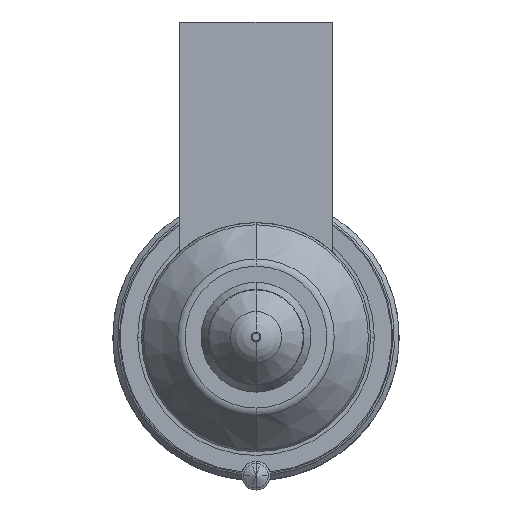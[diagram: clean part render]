
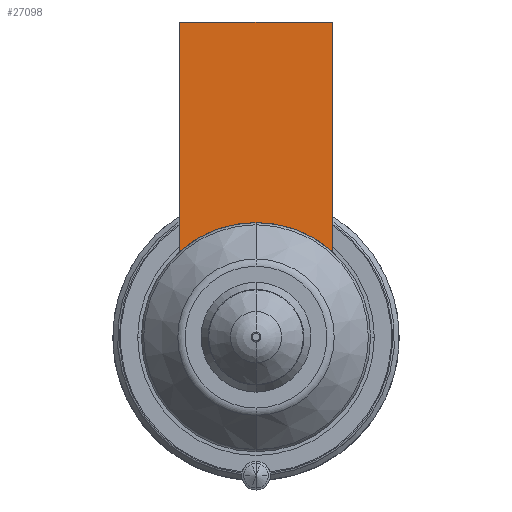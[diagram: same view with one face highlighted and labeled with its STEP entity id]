
A CAD part, front view. The second image highlights one B-rep face of the part: STEP entity #27098.
In plain terms, the highlighted planar face has unit normal (0, -1, 0).
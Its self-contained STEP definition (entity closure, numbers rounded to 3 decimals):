
#26176=DIRECTION('',(0.,0.,-1.));
#26177=VECTOR('',#26176,24.056);
#26178=CARTESIAN_POINT('',(-8.,-56.,33.));
#26179=LINE('',#26178,#26177);
#26216=DIRECTION('',(1.,0.,0.));
#26217=VECTOR('',#26216,16.);
#26218=CARTESIAN_POINT('',(-8.,-56.,33.));
#26219=LINE('',#26218,#26217);
#26223=CARTESIAN_POINT('',(0.,-56.,0.));
#26224=DIRECTION('',(0.,-1.,0.));
#26225=DIRECTION('',(0.667,0.,0.745));
#26226=AXIS2_PLACEMENT_3D('',#26223,#26224,#26225);
#26231=CARTESIAN_POINT('',(0.,-56.,0.));
#26232=DIRECTION('',(0.,-1.,0.));
#26233=DIRECTION('',(0.,0.,1.));
#26234=AXIS2_PLACEMENT_3D('',#26231,#26232,#26233);
#26267=DIRECTION('',(0.,0.,-1.));
#26268=VECTOR('',#26267,24.056);
#26269=CARTESIAN_POINT('',(8.,-56.,33.));
#26270=LINE('',#26269,#26268);
#26934=CARTESIAN_POINT('',(-8.,-56.,33.));
#26935=VERTEX_POINT('',#26934);
#26940=CARTESIAN_POINT('',(8.,-56.,33.));
#26941=VERTEX_POINT('',#26940);
#26944=CARTESIAN_POINT('',(-8.,-56.,8.944));
#26945=VERTEX_POINT('',#26944);
#26948=CARTESIAN_POINT('',(8.,-56.,8.944));
#26949=VERTEX_POINT('',#26948);
#27017=CARTESIAN_POINT('',(0.,-56.,12.));
#27018=VERTEX_POINT('',#27017);
#27083=CARTESIAN_POINT('',(-8.,-56.,33.));
#27084=DIRECTION('',(0.,-1.,0.));
#27085=DIRECTION('',(0.,0.,-1.));
#27086=AXIS2_PLACEMENT_3D('',#27083,#27084,#27085);
#27087=PLANE('',#27086);
#27088=ORIENTED_EDGE('',*,*,#27031,.F.);
#27090=ORIENTED_EDGE('',*,*,#27089,.T.);
#27092=ORIENTED_EDGE('',*,*,#27091,.T.);
#27094=ORIENTED_EDGE('',*,*,#27093,.T.);
#27095=ORIENTED_EDGE('',*,*,#27063,.T.);
#27096=EDGE_LOOP('',(#27088,#27090,#27092,#27094,#27095));
#27097=FACE_OUTER_BOUND('',#27096,.F.);
#27098=ADVANCED_FACE('',(#27097),#27087,.T.);
#26227=CIRCLE('',#26226,12.);
#26235=CIRCLE('',#26234,12.);
#27031=EDGE_CURVE('',#26935,#26945,#26179,.T.);
#27063=EDGE_CURVE('',#27018,#26945,#26235,.T.);
#27089=EDGE_CURVE('',#26935,#26941,#26219,.T.);
#27091=EDGE_CURVE('',#26941,#26949,#26270,.T.);
#27093=EDGE_CURVE('',#26949,#27018,#26227,.T.);
